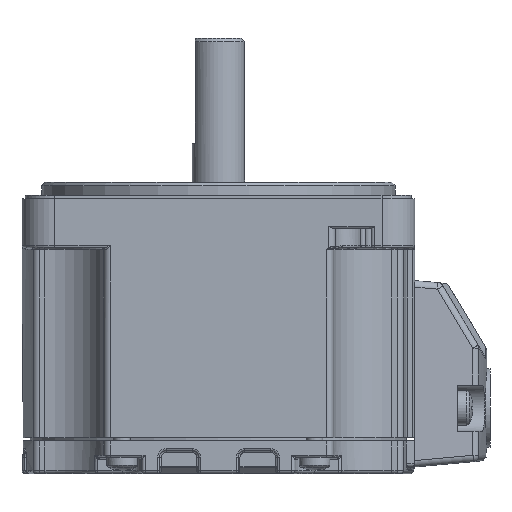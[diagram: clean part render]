
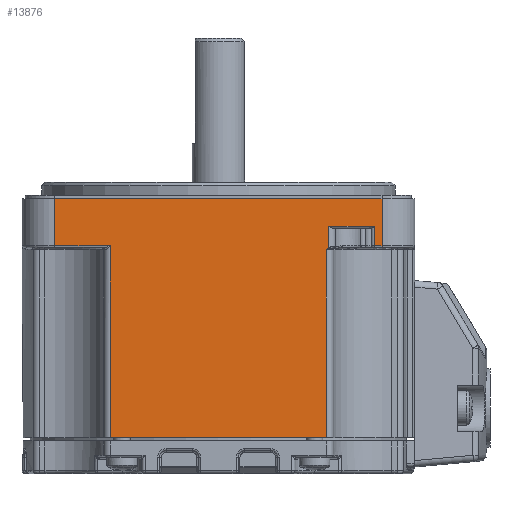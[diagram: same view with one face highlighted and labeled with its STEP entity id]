
A CAD part, left-side view. The second image highlights one B-rep face of the part: STEP entity #13876.
In plain terms, the highlighted planar face has unit normal (-1, 0, 0).
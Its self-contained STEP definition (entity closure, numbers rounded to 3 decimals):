
#408=B_SPLINE_CURVE_WITH_KNOTS('',3,(#26560,#26561,#26562,#26563,#26564,
#26565),.UNSPECIFIED.,.F.,.F.,(4,2,4),(0.,0.046,0.046),
 .UNSPECIFIED.);
#1196=PLANE('',#15566);
#1950=FACE_OUTER_BOUND('',#2807,.T.);
#2807=EDGE_LOOP('',(#12379,#12380,#12381,#12382,#12383,#12384,#12385,#12386,
#12387,#12388,#12389,#12390));
#4469=LINE('',#25765,#5239);
#4472=LINE('',#25779,#5242);
#4521=LINE('',#25992,#5291);
#4526=LINE('',#26026,#5296);
#4538=LINE('',#26210,#5308);
#4539=LINE('',#26216,#5309);
#4550=LINE('',#26344,#5320);
#4551=LINE('',#26396,#5321);
#4579=LINE('',#27152,#5349);
#4587=LINE('',#27219,#5357);
#4590=LINE('',#27304,#5360);
#5239=VECTOR('',#18738,7.2);
#5242=VECTOR('',#18755,50.);
#5291=VECTOR('',#18980,28.7);
#5296=VECTOR('',#19011,33.);
#5308=VECTOR('',#19129,7.2);
#5309=VECTOR('',#19134,3.);
#5320=VECTOR('',#19173,3.296);
#5321=VECTOR('',#19188,1.15);
#5349=VECTOR('',#19430,8.5);
#5357=VECTOR('',#19466,29.3);
#5360=VECTOR('',#19505,7.);
#6382=VERTEX_POINT('',#25762);
#6383=VERTEX_POINT('',#25764);
#6386=VERTEX_POINT('',#25774);
#6462=VERTEX_POINT('',#25989);
#6463=VERTEX_POINT('',#25991);
#6479=VERTEX_POINT('',#26025);
#6526=VERTEX_POINT('',#26208);
#6527=VERTEX_POINT('',#26212);
#6529=VERTEX_POINT('',#26215);
#6539=VERTEX_POINT('',#26270);
#6540=VERTEX_POINT('',#26335);
#6589=VERTEX_POINT('',#27146);
#8211=EDGE_CURVE('',#6382,#6383,#4469,.T.);
#8219=EDGE_CURVE('',#6386,#6383,#4472,.T.);
#8323=EDGE_CURVE('',#6462,#6463,#4521,.T.);
#8340=EDGE_CURVE('',#6479,#6463,#4526,.T.);
#8399=EDGE_CURVE('',#6386,#6526,#4538,.T.);
#8401=EDGE_CURVE('',#6529,#6527,#4539,.T.);
#8423=EDGE_CURVE('',#6539,#6540,#4550,.T.);
#8428=EDGE_CURVE('',#6526,#6527,#4551,.T.);
#8440=EDGE_CURVE('',#6539,#6462,#408,.T.);
#8547=EDGE_CURVE('',#6589,#6382,#4579,.T.);
#8568=EDGE_CURVE('',#6589,#6479,#4587,.T.);
#8582=EDGE_CURVE('',#6529,#6540,#4590,.T.);
#12379=ORIENTED_EDGE('',*,*,#8423,.T.);
#12380=ORIENTED_EDGE('',*,*,#8582,.F.);
#12381=ORIENTED_EDGE('',*,*,#8401,.T.);
#12382=ORIENTED_EDGE('',*,*,#8428,.F.);
#12383=ORIENTED_EDGE('',*,*,#8399,.F.);
#12384=ORIENTED_EDGE('',*,*,#8219,.T.);
#12385=ORIENTED_EDGE('',*,*,#8211,.F.);
#12386=ORIENTED_EDGE('',*,*,#8547,.F.);
#12387=ORIENTED_EDGE('',*,*,#8568,.T.);
#12388=ORIENTED_EDGE('',*,*,#8340,.T.);
#12389=ORIENTED_EDGE('',*,*,#8323,.F.);
#12390=ORIENTED_EDGE('',*,*,#8440,.F.);
#13876=ADVANCED_FACE('',(#1950),#1196,.T.);
#15566=AXIS2_PLACEMENT_3D('',#27303,#19503,#19504);
#18738=DIRECTION('',(0.,0.,1.));
#18755=DIRECTION('',(0.,1.,0.));
#18980=DIRECTION('',(0.,0.,-1.));
#19011=DIRECTION('',(0.,-1.,0.));
#19129=DIRECTION('',(0.,0.,-1.));
#19134=DIRECTION('',(0.,0.,-1.));
#19173=DIRECTION('',(0.,0.,1.));
#19188=DIRECTION('',(0.,1.,0.));
#19430=DIRECTION('',(0.,1.,0.));
#19466=DIRECTION('',(0.,0.,-1.));
#19503=DIRECTION('center_axis',(-1.,0.,0.));
#19504=DIRECTION('ref_axis',(0.,0.,1.));
#19505=DIRECTION('',(0.,1.,0.));
#25762=CARTESIAN_POINT('',(-60.,55.,-21.571));
#25764=CARTESIAN_POINT('',(-60.,55.,-14.371));
#25765=CARTESIAN_POINT('',(-60.,55.,-21.571));
#25774=CARTESIAN_POINT('',(-60.,5.,-14.371));
#25779=CARTESIAN_POINT('',(-60.,5.,-14.371));
#25989=CARTESIAN_POINT('',(-60.,13.5,-22.171));
#25991=CARTESIAN_POINT('',(-60.,13.5,-50.871));
#25992=CARTESIAN_POINT('',(-60.,13.5,-22.171));
#26025=CARTESIAN_POINT('',(-60.,46.5,-50.871));
#26026=CARTESIAN_POINT('',(-60.,46.5,-50.871));
#26208=CARTESIAN_POINT('',(-60.,5.,-21.571));
#26210=CARTESIAN_POINT('',(-60.,5.,-14.371));
#26212=CARTESIAN_POINT('',(-60.,6.15,-21.571));
#26215=CARTESIAN_POINT('',(-60.,6.15,-18.571));
#26216=CARTESIAN_POINT('',(-60.,6.15,-18.571));
#26270=CARTESIAN_POINT('',(-60.,13.15,-21.867));
#26335=CARTESIAN_POINT('',(-60.,13.15,-18.571));
#26344=CARTESIAN_POINT('',(-60.,13.15,-21.867));
#26396=CARTESIAN_POINT('',(-60.,5.,-21.571));
#26560=CARTESIAN_POINT('Ctrl Pts',(-60.,13.15,-21.867));
#26561=CARTESIAN_POINT('Ctrl Pts',(-60.,13.272,-21.96));
#26562=CARTESIAN_POINT('Ctrl Pts',(-60.,13.385,-22.064));
#26563=CARTESIAN_POINT('Ctrl Pts',(-60.,13.498,-22.169));
#26564=CARTESIAN_POINT('Ctrl Pts',(-60.,13.499,-22.17));
#26565=CARTESIAN_POINT('Ctrl Pts',(-60.,13.5,-22.171));
#27146=CARTESIAN_POINT('',(-60.,46.5,-21.571));
#27152=CARTESIAN_POINT('',(-60.,46.5,-21.571));
#27219=CARTESIAN_POINT('',(-60.,46.5,-21.571));
#27303=CARTESIAN_POINT('Origin',(-60.,60.,-14.371));
#27304=CARTESIAN_POINT('',(-60.,6.15,-18.571));
